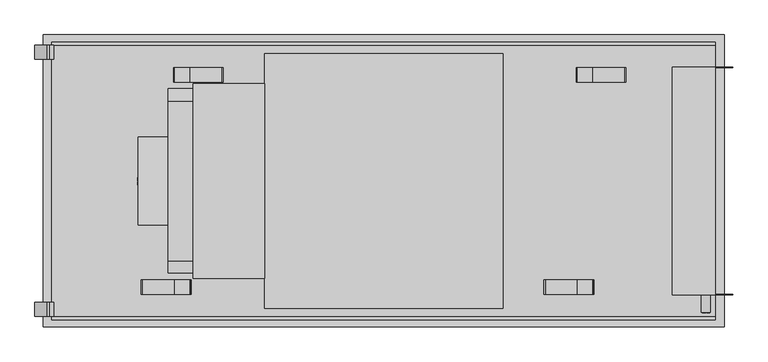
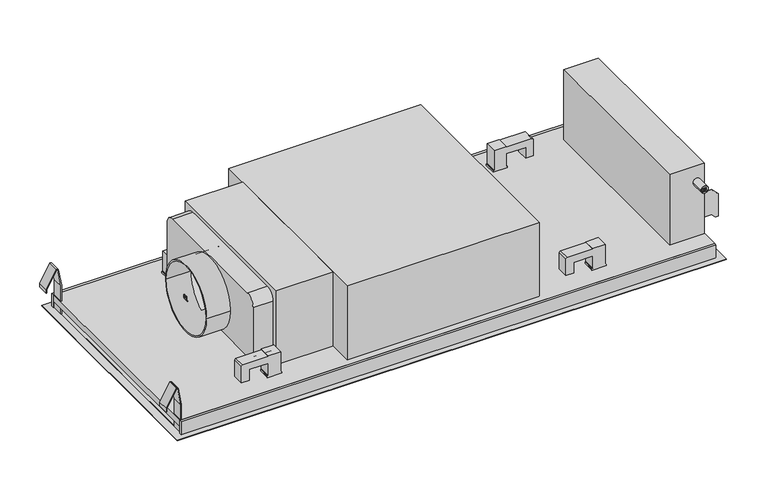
"""IFC4 building model written with IfcOpenShell, lengths in millimetres: proxy geometry, 12564130_NER_DAC4240_WSMA : 28C4240H_NER_12564130_DAC4240_WSMA."""

import ifcopenshell
import ifcopenshell.guid

model = None  # the IFC model being written
_history = None  # IfcOwnerHistory: only IFC2X3 demands one
_inside = {}  # id of a spatial element -> (the spatial element, [elements in it])
_under = {}  # id of a project, library or spatial element -> (it, [spatial elements below it])
_declared = {}  # id of a project -> (the project, [libraries it declares])
_typed = {}  # id of a type object -> (the type object, [elements of that type])
_made_of = {}  # id of a material, layer set ... -> (it, [elements and type objects made of it])


def new_model(schema):
    """Start an empty IFC model of exactly this schema.

    Asked for "IFC4X3", IfcOpenShell would pick the latest addendum, in which some entities
    have other attributes; the version numbers below select the first issue.
    IFC2X3 requires an IfcOwnerHistory on every rooted entity: one is made here for all.
    """
    global model, _history
    if schema == "IFC4X3":
        model = ifcopenshell.file(schema_version=(4, 3, 0, 0))
    else:
        model = ifcopenshell.file(schema=schema)
    _inside.clear()
    _under.clear()
    _declared.clear()
    _typed.clear()
    _made_of.clear()
    _history = None
    if model.schema == "IFC2X3":
        org = make("IfcOrganization", Name="unknown")
        user = make(
            "IfcPersonAndOrganization",
            ThePerson=make("IfcPerson", FamilyName="unknown"),
            TheOrganization=org,
        )
        app = make(
            "IfcApplication",
            ApplicationDeveloper=org,
            Version="unknown",
            ApplicationFullName="unknown",
            ApplicationIdentifier="unknown",
        )
        _history = make(
            "IfcOwnerHistory",
            OwningUser=user,
            OwningApplication=app,
            ChangeAction="ADDED",
            CreationDate=0,
        )
    return model


def make(cls, **values):
    """One entity of the class cls with the attributes given. An attribute that is None is left unset."""
    return model.create_entity(
        cls, **{name: value for name, value in values.items() if value is not None}
    )


def rooted(cls, **values):
    """An entity with a GlobalId (a new one), such as an element, a storey or a relation."""
    return make(cls, GlobalId=ifcopenshell.guid.new(), OwnerHistory=_history, **values)


def si_unit(unit_type, name, prefix=None):
    """IfcSIUnit, for example si_unit("LENGTHUNIT", "METRE", prefix="MILLI")."""
    return make("IfcSIUnit", UnitType=unit_type, Prefix=prefix, Name=name)


def assignment(units):
    """IfcUnitAssignment: the units of a project."""
    return None if units is None else make("IfcUnitAssignment", Units=units)


def point(xyz):
    """IfcCartesianPoint."""
    return None if xyz is None else make("IfcCartesianPoint", Coordinates=xyz)


def direction(xyz):
    """IfcDirection."""
    return None if xyz is None else make("IfcDirection", DirectionRatios=xyz)


def frame(location, z_axis=None, x_axis=None):
    """IfcAxis2Placement3D, a coordinate frame: its origin and axes. An axis left out is left unset."""
    return make(
        "IfcAxis2Placement3D",
        Location=point(location),
        Axis=direction(z_axis),
        RefDirection=direction(x_axis),
    )


def frame_2d(location, x_axis=None):
    """IfcAxis2Placement2D, a coordinate frame in the plane: its origin and x axis."""
    return make(
        "IfcAxis2Placement2D", Location=point(location), RefDirection=direction(x_axis)
    )


def origin():
    """The frame at (0, 0, 0) with its axes left unset."""
    return frame((0.0, 0.0, 0.0))


def origin_with_axes():
    """The frame at (0, 0, 0) with the z axis (0, 0, 1) and the x axis (1, 0, 0) written out."""
    return frame((0.0, 0.0, 0.0), z_axis=(0.0, 0.0, 1.0), x_axis=(1.0, 0.0, 0.0))


def place(relative_to, where):
    """IfcLocalPlacement: puts the frame where relative to a parent placement (None: the world)."""
    return make(
        "IfcLocalPlacement", PlacementRelTo=relative_to, RelativePlacement=where
    )


def context(
    kind, dimensions, precision=None, world=None, true_north=None, identifier=None
):
    """IfcGeometricRepresentationContext, for example the 3D "Model" context."""
    return make(
        "IfcGeometricRepresentationContext",
        ContextIdentifier=identifier,
        ContextType=kind,
        CoordinateSpaceDimension=dimensions,
        Precision=precision,
        WorldCoordinateSystem=world,
        TrueNorth=true_north,
    )


def project(units=None, contexts=None):
    """IfcProject with its units and contexts."""
    return rooted(
        "IfcProject",
        Name="project",
        RepresentationContexts=contexts,
        UnitsInContext=assignment(units),
    )


def spatial(cls, under=None, at=None, **own):
    """A site, building, storey or space (cls), placed at a placement, below another one or the project."""
    s = rooted(cls, ObjectPlacement=at, **own)
    if under is not None:
        _under.setdefault(under.id(), (under, []))[1].append(s)
    return s


def polyline(points):
    """IfcPolyline through the points."""
    return make("IfcPolyline", Points=[point(p) for p in points])


def circle_curve(where, radius):
    """IfcCircle in the frame where."""
    return make("IfcCircle", Position=where, Radius=radius)


def ellipse_curve(where, semi_axis1, semi_axis2):
    """IfcEllipse in the frame where."""
    return make(
        "IfcEllipse", Position=where, SemiAxis1=semi_axis1, SemiAxis2=semi_axis2
    )


def trimmed(basis, trim1, trim2, sense, master):
    """IfcTrimmedCurve: the piece of a basis curve between two trims."""
    return make(
        "IfcTrimmedCurve",
        BasisCurve=basis,
        Trim1=trim1,
        Trim2=trim2,
        SenseAgreement=sense,
        MasterRepresentation=master,
    )


def segment(curve, same_sense, transition):
    """IfcCompositeCurveSegment."""
    return make(
        "IfcCompositeCurveSegment",
        Transition=transition,
        SameSense=same_sense,
        ParentCurve=curve,
    )


def composite_curve(segments, self_intersect=None):
    """IfcCompositeCurve: segments joined end to end."""
    return make("IfcCompositeCurve", Segments=segments, SelfIntersect=self_intersect)


def outline(outer, holes=None, kind="AREA"):
    """IfcArbitraryClosedProfileDef: a profile drawn as a closed curve; with holes, ...WithVoids."""
    if holes is None:
        return make("IfcArbitraryClosedProfileDef", ProfileType=kind, OuterCurve=outer)
    return make(
        "IfcArbitraryProfileDefWithVoids",
        ProfileType=kind,
        OuterCurve=outer,
        InnerCurves=holes,
    )


def extrude(swept, where, along, depth):
    """IfcExtrudedAreaSolid: the profile swept, set in the frame where, extruded along a direction by depth."""
    return make(
        "IfcExtrudedAreaSolid",
        SweptArea=swept,
        Position=where,
        ExtrudedDirection=direction(along),
        Depth=depth,
    )


def faces_of(points, faces, orient=None, outer=None):
    """IfcFace entities. A face is a list of loops; a loop is a list of indices into points, from 0.

    orient and outer hold one flag for each loop. By default every Orientation is true, the
    first loop of a face is its IfcFaceOuterBound and the others are IfcFaceBound.
    """
    made = []
    for i, loops in enumerate(faces):
        bounds = []
        for j, loop in enumerate(loops):
            is_outer = j == 0 if outer is None else outer[i][j]
            bounds.append(
                make(
                    "IfcFaceOuterBound" if is_outer else "IfcFaceBound",
                    Bound=make("IfcPolyLoop", Polygon=[points[k] for k in loop]),
                    Orientation=True if orient is None else orient[i][j],
                )
            )
        made.append(make("IfcFace", Bounds=bounds))
    return made


def faceted_brep(points, faces, orient=None, outer=None, voids=None):
    """IfcFacetedBrep: a solid bounded by flat faces; with voids (closed shells), ...WithVoids."""
    shared = [point(p) for p in points]
    hull = make("IfcClosedShell", CfsFaces=faces_of(shared, faces, orient, outer))
    if voids is None:
        return make("IfcFacetedBrep", Outer=hull)
    return make(
        "IfcFacetedBrepWithVoids",
        Outer=hull,
        Voids=[
            make(cls, CfsFaces=faces_of(shared, fs, o, b)) for cls, fs, o, b in voids
        ],
    )


def shape(context_of_items, identifier, shape_type, items):
    """IfcShapeRepresentation: the items that make up one representation, for example the "Body"."""
    return make(
        "IfcShapeRepresentation",
        ContextOfItems=context_of_items,
        RepresentationIdentifier=identifier,
        RepresentationType=shape_type,
        Items=items,
    )


def source(mapping_origin, context_of_items, identifier, shape_type, items):
    """IfcRepresentationMap: a shape defined once, which mapped items show again and again."""
    return make(
        "IfcRepresentationMap",
        MappingOrigin=mapping_origin,
        MappedRepresentation=shape(context_of_items, identifier, shape_type, items),
    )


def transform(
    local_origin,
    x_axis=None,
    y_axis=None,
    z_axis=None,
    scale=None,
    scale2=None,
    scale3=None,
    uniform=True,
):
    """IfcCartesianTransformationOperator3D, or its non-uniform kind. x_axis, y_axis, z_axis: its Axis1, 2, 3."""
    if uniform:
        return make(
            "IfcCartesianTransformationOperator3D",
            Axis1=direction(x_axis),
            Axis2=direction(y_axis),
            LocalOrigin=point(local_origin),
            Scale=scale,
            Axis3=direction(z_axis),
        )
    return make(
        "IfcCartesianTransformationOperator3DnonUniform",
        Axis1=direction(x_axis),
        Axis2=direction(y_axis),
        LocalOrigin=point(local_origin),
        Scale=scale,
        Axis3=direction(z_axis),
        Scale2=scale2,
        Scale3=scale3,
    )


def mapped(mapping_source, mapping_target):
    """IfcMappedItem: shows the shape of a source again, moved by a transform."""
    return make(
        "IfcMappedItem", MappingSource=mapping_source, MappingTarget=mapping_target
    )


def made_of(thing, what):
    """Note that an element or type object is made of a material, layer set ...; save() writes the relation."""
    if what is not None:
        _made_of.setdefault(what.id(), (what, []))[1].append(thing)
    return thing


def element(
    cls,
    number,
    at=None,
    inside=None,
    cuts=None,
    type_object=None,
    material=None,
    context=None,
    identifier="Body",
    shape_type=None,
    held_by="IfcProductDefinitionShape",
    body=None,
    shapes=None,
    **own,
):
    """One element of the class cls, such as IfcWall. Its Tag is "e" and its number.

    at: its placement. inside: the storey or other place that contains it. cuts: it is an
    opening in that element (IfcRelVoidsElement). A single representation is given by context,
    identifier, shape_type and body (its items); several are given by shapes. held_by: the class
    of the entity that holds the representations. save() writes the other relations.
    """
    e = rooted(cls, Tag="e%d" % number, ObjectPlacement=at, **own)
    if body is not None:
        shapes = [shape(context, identifier, shape_type, body)]
    if shapes is not None:
        e.Representation = make(held_by, Representations=shapes)
    if inside is not None:
        _inside.setdefault(inside.id(), (inside, []))[1].append(e)
    if cuts is not None:
        rooted(
            "IfcRelVoidsElement", RelatingBuildingElement=cuts, RelatedOpeningElement=e
        )
    if type_object is not None:
        _typed.setdefault(type_object.id(), (type_object, []))[1].append(e)
    return made_of(e, material)


def aggregate(whole, parts):
    """IfcRelAggregates: a whole, such as a stair, and the parts it consists of."""
    return rooted("IfcRelAggregates", RelatingObject=whole, RelatedObjects=parts)


def save(model, path):
    """Write the relations noted so far, then the file.

    IfcRelAggregates (storeys below a building ...), IfcRelContainedInSpatialStructure (elements
    in a storey), IfcRelDefinesByType, IfcRelAssociatesMaterial and IfcRelDeclares: one each for
    every whole, place, type object, material and project.
    """
    for whole, parts in _under.values():
        aggregate(whole, parts)
    for where, things in _inside.values():
        rooted(
            "IfcRelContainedInSpatialStructure",
            RelatedElements=things,
            RelatingStructure=where,
        )
    for kind, things in _typed.values():
        rooted("IfcRelDefinesByType", RelatedObjects=things, RelatingType=kind)
    for what, things in _made_of.values():
        rooted("IfcRelAssociatesMaterial", RelatedObjects=things, RelatingMaterial=what)
    for by, libraries in _declared.values():
        rooted("IfcRelDeclares", RelatingContext=by, RelatedDefinitions=libraries)
    model.write(path)


def plane_surface(at):
    """IfcPlane: the flat surface through the origin of the frame at, square to its z axis."""
    return make("IfcPlane", Position=at)


def cylinder_surface(at, radius):
    """IfcCylindricalSurface: all points at the distance radius from the z axis of the frame at."""
    return make("IfcCylindricalSurface", Position=at, Radius=radius)


def revolved_surface(curve, axis_point, axis_direction):
    """IfcSurfaceOfRevolution: the curve turned about the line through axis_point along axis_direction."""
    return make(
        "IfcSurfaceOfRevolution",
        SweptCurve=make("IfcArbitraryOpenProfileDef", ProfileType="CURVE", Curve=curve),
        AxisPosition=make("IfcAxis1Placement", Location=point(axis_point), Axis=direction(axis_direction)),
    )


def extruded_surface(curve, direction_of_extrusion, depth):
    """IfcSurfaceOfLinearExtrusion: the curve pushed along a direction by depth."""
    return make(
        "IfcSurfaceOfLinearExtrusion",
        SweptCurve=make("IfcArbitraryOpenProfileDef", ProfileType="CURVE", Curve=curve),
        ExtrudedDirection=direction(direction_of_extrusion),
        Depth=depth,
    )


def advanced_brep(points, edges, surfaces, faces):
    """IfcAdvancedBrep: a solid bounded by faces that lie on surfaces and meet in shared edges.

    An edge is (start, end): straight between two places in points (the first is 0);
    or (start, end, curve); or (start, end, curve, False) where it runs against its curve.
    A face is (place in surfaces, loops), or (place, loops, False) where it looks against
    its surface's normal. A loop lists edges by number (the first is 1), with a minus sign
    where the edge is run from its end to its start. The first loop is the outer one.
    """
    corners = [point(p) for p in points]
    vertices = [make("IfcVertexPoint", VertexGeometry=c) for c in corners]
    made = []
    for start, end, *more in edges:
        made.append(
            make(
                "IfcEdgeCurve",
                EdgeStart=vertices[start],
                EdgeEnd=vertices[end],
                EdgeGeometry=more[0] if more else make("IfcPolyline", Points=[corners[start], corners[end]]),
                SameSense=more[1] if len(more) > 1 else True,
            )
        )
    hull = []
    for where, loops, *sense in faces:
        bounds = []
        for j, loop in enumerate(loops):
            ring = [make("IfcOrientedEdge", EdgeElement=made[abs(k) - 1], Orientation=k > 0) for k in loop]
            bounds.append(
                make(
                    "IfcFaceOuterBound" if j == 0 else "IfcFaceBound",
                    Bound=make("IfcEdgeLoop", EdgeList=ring),
                    Orientation=True,
                )
            )
        hull.append(make("IfcAdvancedFace", Bounds=bounds, FaceSurface=surfaces[where], SameSense=sense[0] if sense else True))
    return make("IfcAdvancedBrep", Outer=make("IfcClosedShell", CfsFaces=hull))


def specialty_equipment_91089ce4(model_context):
    return source(origin(), model_context, "Body", "SolidModel", [
        extrude(outline(polyline([(0.0, 0.0), (1.1495, 0.0), (1.1495, 6.3555), (0.0, 6.3555), (0.0, 7.9515), (4.18, 7.9515), (4.18, 6.3555), (3.04, 6.3555), (3.04, 2.3238752), (7.2865, 7.9515), (11.552, 2.1987777), (11.552, 6.3555), (10.3835, 6.3555), (10.3835, 7.9515), (17.9645, 7.9515), (17.9645, 6.3555), (16.758, 6.3555), (16.758, 0.0), (17.9645, 0.0), (17.9645, -1.5485), (12.179, -1.5485), (9.405, 2.014), (6.6215, -1.5485), (0.0, -1.5485), (0.0, 0.0)])), frame((-537.4682202, 221.9339142, 5.9781829), z_axis=(-0.25881904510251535, 0.0, 0.9659258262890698), x_axis=(0.0, 1.0, 0.0)), (0.0, 0.0, 1.0), 1.0),
        extrude(outline(polyline([(0.0, 0.0), (1.14, 0.0), (1.14, 6.3555), (0.0, 6.3555), (0.0, 7.9515), (7.7045, 7.9515), (7.7045, 6.3555), (6.536, 6.3555), (6.536, -1.5485), (0.0, -1.5485), (0.0, 0.0)])), frame((-537.4682202, 260.4849142, 5.9781829), z_axis=(-0.25881904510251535, 0.0, 0.9659258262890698), x_axis=(0.0, 1.0, 0.0)), (0.0, 0.0, 1.0), 1.0),
        extrude(outline(polyline([(0.0, 0.0), (1.6999427, 0.0), (1.7088618, -3.5531031), (0.012954, -3.5617037), (0.0, 0.0)])), frame((-536.5138855, 243.2139142, 6.2338962), z_axis=(-0.25881904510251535, 0.0, 0.9659258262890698), x_axis=(-0.8744764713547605, 0.42472021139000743, -0.23431526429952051)), (0.0, 0.0, 1.0), 1.0),
        extrude(outline(polyline([(0.5859016, 2.8667553), (2.1254061, 3.588992), (2.6055523, 2.5655224), (6.1317919, 4.2198077), (5.6516457, 5.2432772), (7.0965438, 5.9211306), (10.2800342, -0.8647304), (8.835136, -1.5425838), (8.3670943, -0.544916), (3.3013503, -2.921438), (0.5859016, 2.8667553)])), frame((-536.5138855, 243.2139142, 6.2338962), z_axis=(-0.25881904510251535, 0.0, 0.9659258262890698), x_axis=(-0.8744764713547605, 0.42472021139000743, -0.23431526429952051)), (0.0, 0.0, 1.0), 1.0),
        advanced_brep(
        [(-542.9739974, 253.5974142, 4.5029144), (-542.0471916, 253.5974142, 4.7512513), (-542.0471916, 259.9529142, 4.7512513), (-542.0471916, 248.8949142, 4.7512513), (-545.1487794, 251.5074142, 3.9201833), (-542.9739974, 259.7914142, 4.5029144), (-542.9739974, 256.9224142, 4.5029144), (-544.0017425, 254.6614142, 4.2275309), (-540.8726258, 253.5974142, 5.0659752), (-539.8724096, 253.5974142, 5.3339823), (-539.8724096, 255.2219142, 5.3339823), (-540.8726258, 255.2219142, 5.0659752), (-543.2328165, 253.5974142, 5.4688402), (-544.2605616, 254.6614142, 5.1934567), (-543.2328165, 256.9224142, 5.4688402), (-543.2328165, 259.7914142, 5.4688402), (-545.4075985, 251.5074142, 4.8861091), (-542.3060106, 248.8949142, 5.7171771), (-542.3060106, 259.9529142, 5.7171771), (-542.3060106, 253.5974142, 5.7171771), (-541.1314448, 253.5974142, 6.031901), (-541.1314448, 255.2219142, 6.031901), (-540.1312286, 255.2219142, 6.2999082), (-540.1312286, 253.5974142, 6.2999082)],
        [
            (0, 1),
            (1, 2),
            (2, 3, ellipse_curve(frame((-542.0471916, 254.4239142, 4.7512513), z_axis=(0.25881904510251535, 0.0, -0.9659258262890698), x_axis=(0.0, -1.0, 0.0)), 5.529, 4.5695)),
            (3, 4, circle_curve(frame((-541.7351976, 252.571466, 4.8348498), z_axis=(0.25881904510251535, 0.0, -0.9659258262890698), x_axis=(-0.9659258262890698, 0.0, -0.25881904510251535)), 3.690713)),
            (4, 5, circle_curve(frame((-539.3126556, 254.3132316, 5.483968), z_axis=(0.25881904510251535, 0.0, -0.9659258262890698), x_axis=(-0.9659258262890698, 0.0, -0.25881904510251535)), 6.6617096)),
            (5, 6),
            (6, 7, circle_curve(frame((-542.120602, 255.1257966, 4.731581), z_axis=(-0.25881904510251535, 0.0, 0.9659258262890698), x_axis=(-0.9659258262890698, 0.0, -0.25881904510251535)), 2.0021007)),
            (7, 0, circle_curve(frame((-542.9739974, 254.6614142, 4.5029144), z_axis=(-0.25881904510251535, 0.0, 0.9659258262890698), x_axis=(-0.9659258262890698, 0.0, -0.25881904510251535)), 1.064)),
            (8, 9),
            (9, 10, circle_curve(frame((-539.8724096, 254.4096642, 5.3339823), z_axis=(-0.25881904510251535, 0.0, 0.9659258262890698), x_axis=(-0.9659258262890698, 0.0, -0.25881904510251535)), 0.81225)),
            (10, 11),
            (11, 8),
            (12, 13, circle_curve(frame((-543.2328165, 254.6614142, 5.4688402), z_axis=(0.25881904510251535, 0.0, -0.9659258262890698), x_axis=(-0.9659258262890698, 0.0, -0.25881904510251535)), 1.064)),
            (13, 14, circle_curve(frame((-542.379421, 255.1257966, 5.6975068), z_axis=(0.25881904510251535, 0.0, -0.9659258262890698), x_axis=(-0.9659258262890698, 0.0, -0.25881904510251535)), 2.0021007)),
            (14, 15),
            (15, 16, circle_curve(frame((-539.5714746, 254.3132316, 6.4498938), z_axis=(-0.25881904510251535, 0.0, 0.9659258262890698), x_axis=(-0.9659258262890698, 0.0, -0.25881904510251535)), 6.6617096)),
            (16, 17, circle_curve(frame((-541.9940166, 252.571466, 5.8007756), z_axis=(-0.25881904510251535, 0.0, 0.9659258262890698), x_axis=(-0.9659258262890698, 0.0, -0.25881904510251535)), 3.690713)),
            (17, 18, ellipse_curve(frame((-542.3060106, 254.4239142, 5.7171771), z_axis=(-0.25881904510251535, 0.0, 0.9659258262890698), x_axis=(0.0, -1.0, 0.0)), 5.529, 4.5695)),
            (18, 19),
            (19, 12),
            (20, 21),
            (21, 22),
            (22, 23, circle_curve(frame((-540.1312286, 254.4096642, 6.2999082), z_axis=(0.25881904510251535, 0.0, -0.9659258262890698), x_axis=(-0.9659258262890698, 0.0, -0.25881904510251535)), 0.81225)),
            (23, 20),
            (0, 12),
            (19, 1),
            (18, 2),
            (5, 15),
            (14, 6),
            (17, 3),
            (13, 7),
            (16, 4),
            (8, 20),
            (23, 9),
            (22, 10),
            (21, 11),
        ],
        [
            plane_surface(frame((-542.0471916, 253.5974142, 4.7512513), z_axis=(0.25881904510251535, 0.0, -0.9659258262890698), x_axis=(0.9659258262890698, 0.0, 0.25881904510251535))),
            plane_surface(frame((-542.3060106, 253.5974142, 5.7171771), z_axis=(-0.25881904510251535, 0.0, 0.9659258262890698), x_axis=(-0.9659258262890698, 0.0, -0.25881904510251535))),
            plane_surface(frame((-542.9739974, 253.5974142, 4.5029144), z_axis=(0.0, 1.0000000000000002, 0.0), x_axis=(-0.2588190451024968, 0.0, 0.9659258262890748))),
            plane_surface(frame((-542.0471916, 253.5974142, 4.7512513), z_axis=(-0.9659258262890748, 0.0, -0.2588190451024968), x_axis=(-0.2588190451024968, 0.0, 0.9659258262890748))),
            plane_surface(frame((-542.9739974, 259.7914142, 4.5029144), z_axis=(0.9659258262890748, 0.0, 0.2588190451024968), x_axis=(-0.2588190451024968, 0.0, 0.9659258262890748))),
            extruded_surface(trimmed(ellipse_curve(frame((-542.5648297, 254.4239142, 6.6831029), z_axis=(0.25881904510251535, 0.0, -0.9659258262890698), x_axis=(0.0, -1.0, 0.0)), 5.529, 4.5695), [point((-542.5648297, 259.9529142, 6.6831029))], [point((-542.5648297, 248.8949142, 6.6831029))], True, "CARTESIAN"), (0.2588190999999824, 0.0, -0.9659258), 0.9999999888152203),
            revolved_surface(polyline([(-544.3133017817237, 255.1257966, 5.179325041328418), (-544.0544827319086, 255.1257966, 4.213399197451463)]), (-542.379421, 255.1257966, 5.6975068), (-0.25881904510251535, 0.0, 0.9659258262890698)),
            revolved_surface(polyline([(-544.2605615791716, 254.6614142, 5.193456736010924), (-544.0017425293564, 254.6614142, 4.227530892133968)]), (-543.2328165, 254.6614142, 5.4688402), (-0.25881904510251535, 0.0, 0.9659258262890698)),
            cylinder_surface(frame((-541.9940166, 252.571466, 5.8007756), z_axis=(0.25881904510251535, 0.0, -0.9659258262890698), x_axis=(-0.9659258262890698, 0.0, -0.25881904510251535)), 3.690713),
            cylinder_surface(frame((-539.5714746, 254.3132316, 6.4498938), z_axis=(0.25881904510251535, 0.0, -0.9659258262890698), x_axis=(-0.9659258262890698, 0.0, -0.25881904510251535)), 6.6617096),
            plane_surface(frame((-540.8726258, 253.5974142, 5.0659752), z_axis=(0.0, 1.0000000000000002, 0.0), x_axis=(-0.2588190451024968, 0.0, 0.9659258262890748))),
            revolved_surface(polyline([(-540.9158018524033, 254.4096642, 6.089682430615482), (-540.6569827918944, 254.4096642, 5.123756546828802)]), (-540.1312286, 254.4096642, 6.2999082), (-0.25881904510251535, 0.0, 0.9659258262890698)),
            plane_surface(frame((-539.8724096, 255.2219142, 5.3339823), z_axis=(0.0, -1.0000000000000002, 0.0), x_axis=(-0.2588190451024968, 0.0, 0.9659258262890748))),
            plane_surface(frame((-540.8726258, 255.2219142, 5.0659752), z_axis=(0.9659258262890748, 0.0, 0.2588190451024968), x_axis=(-0.2588190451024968, 0.0, 0.9659258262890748))),
        ],
        [
            (0, [[1, 2, 3, 4, 5, 6, 7, 8], [9, 10, 11, 12]]),
            (1, [[13, 14, 15, 16, 17, 18, 19, 20], [21, 22, 23, 24]]),
            (2, [[-1, 25, -20, 26]]),
            (3, [[-2, -26, -19, 27]]),
            (4, [[-6, 28, -15, 29]]),
            (5, [[-3, -27, -18, 30]]),
            (6, [[-7, -29, -14, 31]]),
            (7, [[-8, -31, -13, -25]]),
            (8, [[-4, -30, -17, 32]]),
            (9, [[-5, -32, -16, -28]]),
            (10, [[-9, 33, -24, 34]]),
            (11, [[-10, -34, -23, 35]]),
            (12, [[-11, -35, -22, 36]]),
            (13, [[-12, -36, -21, -33]]),
        ],
    ),
        advanced_brep(
        [(-542.9739974, 273.4239142, 4.5029144), (-542.0471916, 273.4239142, 4.7512513), (-542.0471916, 279.7794142, 4.7512513), (-542.0471916, 268.7214142, 4.7512513), (-545.1487794, 271.3339142, 3.9201833), (-542.9739974, 279.6179142, 4.5029144), (-542.9739974, 276.7489142, 4.5029144), (-544.0017425, 274.4879142, 4.2275309), (-540.8726258, 273.4239142, 5.0659752), (-539.8724096, 273.4239142, 5.3339823), (-539.8724096, 275.0484142, 5.3339823), (-540.8726258, 275.0484142, 5.0659752), (-543.2328165, 273.4239142, 5.4688402), (-544.2605616, 274.4879142, 5.1934567), (-543.2328165, 276.7489142, 5.4688402), (-543.2328165, 279.6179142, 5.4688402), (-545.4075985, 271.3339142, 4.8861091), (-542.3060106, 268.7214142, 5.7171771), (-542.3060106, 279.7794142, 5.7171771), (-542.3060106, 273.4239142, 5.7171771), (-541.1314448, 273.4239142, 6.031901), (-541.1314448, 275.0484142, 6.031901), (-540.1312286, 275.0484142, 6.2999082), (-540.1312286, 273.4239142, 6.2999082)],
        [
            (0, 1),
            (1, 2),
            (2, 3, ellipse_curve(frame((-542.0471916, 274.2504142, 4.7512513), z_axis=(0.25881904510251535, 0.0, -0.9659258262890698), x_axis=(0.0, -1.0, 0.0)), 5.529, 4.5695)),
            (3, 4, circle_curve(frame((-541.7351976, 272.397966, 4.8348498), z_axis=(0.25881904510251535, 0.0, -0.9659258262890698), x_axis=(-0.9659258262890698, 0.0, -0.25881904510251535)), 3.690713)),
            (4, 5, circle_curve(frame((-539.3126556, 274.1397316, 5.483968), z_axis=(0.25881904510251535, 0.0, -0.9659258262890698), x_axis=(-0.9659258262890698, 0.0, -0.25881904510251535)), 6.6617096)),
            (5, 6),
            (6, 7, circle_curve(frame((-542.120602, 274.9522966, 4.731581), z_axis=(-0.25881904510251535, 0.0, 0.9659258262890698), x_axis=(-0.9659258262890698, 0.0, -0.25881904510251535)), 2.0021007)),
            (7, 0, circle_curve(frame((-542.9739974, 274.4879142, 4.5029144), z_axis=(-0.25881904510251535, 0.0, 0.9659258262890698), x_axis=(-0.9659258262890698, 0.0, -0.25881904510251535)), 1.064)),
            (8, 9),
            (9, 10, circle_curve(frame((-539.8724096, 274.2361642, 5.3339823), z_axis=(-0.25881904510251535, 0.0, 0.9659258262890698), x_axis=(-0.9659258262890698, 0.0, -0.25881904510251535)), 0.81225)),
            (10, 11),
            (11, 8),
            (12, 13, circle_curve(frame((-543.2328165, 274.4879142, 5.4688402), z_axis=(0.25881904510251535, 0.0, -0.9659258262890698), x_axis=(-0.9659258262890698, 0.0, -0.25881904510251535)), 1.064)),
            (13, 14, circle_curve(frame((-542.379421, 274.9522966, 5.6975068), z_axis=(0.25881904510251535, 0.0, -0.9659258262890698), x_axis=(-0.9659258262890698, 0.0, -0.25881904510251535)), 2.0021007)),
            (14, 15),
            (15, 16, circle_curve(frame((-539.5714746, 274.1397316, 6.4498938), z_axis=(-0.25881904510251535, 0.0, 0.9659258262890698), x_axis=(-0.9659258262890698, 0.0, -0.25881904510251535)), 6.6617096)),
            (16, 17, circle_curve(frame((-541.9940166, 272.397966, 5.8007756), z_axis=(-0.25881904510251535, 0.0, 0.9659258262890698), x_axis=(-0.9659258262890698, 0.0, -0.25881904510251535)), 3.690713)),
            (17, 18, ellipse_curve(frame((-542.3060106, 274.2504142, 5.7171771), z_axis=(-0.25881904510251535, 0.0, 0.9659258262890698), x_axis=(0.0, -1.0, 0.0)), 5.529, 4.5695)),
            (18, 19),
            (19, 12),
            (20, 21),
            (21, 22),
            (22, 23, circle_curve(frame((-540.1312286, 274.2361642, 6.2999082), z_axis=(0.25881904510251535, 0.0, -0.9659258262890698), x_axis=(-0.9659258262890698, 0.0, -0.25881904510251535)), 0.81225)),
            (23, 20),
            (0, 12),
            (19, 1),
            (18, 2),
            (5, 15),
            (14, 6),
            (17, 3),
            (13, 7),
            (16, 4),
            (8, 20),
            (23, 9),
            (22, 10),
            (21, 11),
        ],
        [
            plane_surface(frame((-542.0471916, 273.4239142, 4.7512513), z_axis=(0.25881904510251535, 0.0, -0.9659258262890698), x_axis=(0.9659258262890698, 0.0, 0.25881904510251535))),
            plane_surface(frame((-542.3060106, 273.4239142, 5.7171771), z_axis=(-0.25881904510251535, 0.0, 0.9659258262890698), x_axis=(-0.9659258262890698, 0.0, -0.25881904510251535))),
            plane_surface(frame((-542.9739974, 273.4239142, 4.5029144), z_axis=(0.0, 1.0000000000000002, 0.0), x_axis=(-0.2588190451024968, 0.0, 0.9659258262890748))),
            plane_surface(frame((-542.0471916, 273.4239142, 4.7512513), z_axis=(-0.9659258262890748, 0.0, -0.2588190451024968), x_axis=(-0.2588190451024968, 0.0, 0.9659258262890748))),
            plane_surface(frame((-542.9739974, 279.6179142, 4.5029144), z_axis=(0.9659258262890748, 0.0, 0.2588190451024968), x_axis=(-0.2588190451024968, 0.0, 0.9659258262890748))),
            extruded_surface(trimmed(ellipse_curve(frame((-542.5648297, 274.2504142, 6.6831029), z_axis=(0.25881904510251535, 0.0, -0.9659258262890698), x_axis=(0.0, -1.0, 0.0)), 5.529, 4.5695), [point((-542.5648297, 279.7794142, 6.6831029))], [point((-542.5648297, 268.7214142, 6.6831029))], True, "CARTESIAN"), (0.2588190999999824, 0.0, -0.9659258), 0.9999999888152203),
            revolved_surface(polyline([(-544.3133017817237, 274.9522966, 5.179325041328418), (-544.0544827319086, 274.9522966, 4.213399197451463)]), (-542.379421, 274.9522966, 5.6975068), (-0.25881904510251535, 0.0, 0.9659258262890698)),
            revolved_surface(polyline([(-544.2605615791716, 274.4879142, 5.193456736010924), (-544.0017425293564, 274.4879142, 4.227530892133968)]), (-543.2328165, 274.4879142, 5.4688402), (-0.25881904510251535, 0.0, 0.9659258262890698)),
            cylinder_surface(frame((-541.9940166, 272.397966, 5.8007756), z_axis=(0.25881904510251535, 0.0, -0.9659258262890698), x_axis=(-0.9659258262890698, 0.0, -0.25881904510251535)), 3.690713),
            cylinder_surface(frame((-539.5714746, 274.1397316, 6.4498938), z_axis=(0.25881904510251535, 0.0, -0.9659258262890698), x_axis=(-0.9659258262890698, 0.0, -0.25881904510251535)), 6.6617096),
            plane_surface(frame((-540.8726258, 273.4239142, 5.0659752), z_axis=(0.0, 1.0000000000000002, 0.0), x_axis=(-0.2588190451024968, 0.0, 0.9659258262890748))),
            revolved_surface(polyline([(-540.9158018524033, 274.2361642, 6.089682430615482), (-540.6569827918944, 274.2361642, 5.123756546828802)]), (-540.1312286, 274.2361642, 6.2999082), (-0.25881904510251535, 0.0, 0.9659258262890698)),
            plane_surface(frame((-539.8724096, 275.0484142, 5.3339823), z_axis=(0.0, -1.0000000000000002, 0.0), x_axis=(-0.2588190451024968, 0.0, 0.9659258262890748))),
            plane_surface(frame((-540.8726258, 275.0484142, 5.0659752), z_axis=(0.9659258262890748, 0.0, 0.2588190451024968), x_axis=(-0.2588190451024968, 0.0, 0.9659258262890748))),
        ],
        [
            (0, [[1, 2, 3, 4, 5, 6, 7, 8], [9, 10, 11, 12]]),
            (1, [[13, 14, 15, 16, 17, 18, 19, 20], [21, 22, 23, 24]]),
            (2, [[-1, 25, -20, 26]]),
            (3, [[-2, -26, -19, 27]]),
            (4, [[-6, 28, -15, 29]]),
            (5, [[-3, -27, -18, 30]]),
            (6, [[-7, -29, -14, 31]]),
            (7, [[-8, -31, -13, -25]]),
            (8, [[-4, -30, -17, 32]]),
            (9, [[-5, -32, -16, -28]]),
            (10, [[-9, 33, -24, 34]]),
            (11, [[-10, -34, -23, 35]]),
            (12, [[-11, -35, -22, 36]]),
            (13, [[-12, -36, -21, -33]]),
        ],
    ),
        extrude(outline(polyline([(-204.0, 416.5106201), (-204.0, 83.4893799), (-326.0, 83.4893799), (-326.0, 416.5106201), (-204.0, 416.5106201)])), frame((0.0, 0.0, 30.0), z_axis=(0.0, 0.0, 1.0), x_axis=(1.0, 0.0, 0.0)), (0.0, 0.0, 1.0), 166.0),
        extrude(outline(polyline([(567.6935243, 445.0), (567.6935243, 55.0), (494.1000061, 55.0), (494.1000061, 445.0), (567.6935243, 445.0)])), frame((0.0, 0.0, 30.0), z_axis=(0.0, 0.0, 1.0), x_axis=(1.0, 0.0, 0.0)), (0.0, 0.0, 1.0), 157.6000061),
        advanced_brep(
        [(-326.0, 407.6883545, 67.4832764), (-326.0, 407.6883545, 168.5167236), (-326.0, 387.0167236, 189.1883545), (-326.0, 112.9832764, 189.1883545), (-326.0, 92.3116455, 168.5167236), (-326.0, 92.3116455, 67.4832764), (-326.0, 112.9832764, 46.8116455), (-326.0, 211.5404146, 46.8116455), (-326.0, 288.4595854, 46.8116455), (-326.0, 387.0167236, 46.8116455), (-326.0, 322.0, 111.2000008), (-326.0, 282.2201755, 46.8116455), (-326.0, 217.7798245, 46.8116455), (-326.0, 178.0, 111.2000008), (-368.7057465, 407.6883545, 67.4832764), (-368.7057465, 387.0167236, 46.8116455), (-368.7057465, 288.4595854, 46.8116455), (-368.7057465, 325.0, 111.2000008), (-368.7057465, 175.0, 111.2000008), (-368.7057465, 211.5404146, 46.8116455), (-368.7057465, 112.9832764, 46.8116455), (-368.7057465, 92.3116455, 67.4832764), (-368.7057465, 92.3116455, 168.5167236), (-368.7057465, 112.9832764, 189.1883545), (-368.7057465, 387.0167236, 189.1883545), (-368.7057465, 407.6883545, 168.5167236), (-420.0, 175.0, 111.2000008), (-420.0, 325.0, 111.2000008), (-420.0, 178.0, 111.2000008), (-420.0, 322.0, 111.2000008), (-368.7057465, 322.0, 111.2000008), (-368.7057465, 178.0, 111.2000008), (-368.7057465, 217.7798245, 46.8116455), (-368.7057465, 282.2201755, 46.8116455)],
        [
            (0, 1),
            (1, 2, circle_curve(frame((-326.0, 387.0167236, 168.5167236), z_axis=(1.0, 0.0, 0.0), x_axis=(0.0, 1.0, 0.0)), 20.6716309)),
            (2, 3),
            (3, 4, circle_curve(frame((-326.0, 112.9832764, 168.5167236), z_axis=(1.0, 0.0, 0.0), x_axis=(0.0, 1.0, 0.0)), 20.6716309)),
            (4, 5),
            (5, 6, circle_curve(frame((-326.0, 112.9832764, 67.4832764), z_axis=(1.0, 0.0, 0.0), x_axis=(0.0, 1.0, 0.0)), 20.6716309)),
            (6, 7),
            (7, 8, circle_curve(frame((-326.0, 250.0, 111.2000008), z_axis=(1.0, 0.0, 0.0), x_axis=(0.0, 1.0, 0.0)), 75.0)),
            (8, 9),
            (9, 0, circle_curve(frame((-326.0, 387.0167236, 67.4832764), z_axis=(1.0, 0.0, 0.0), x_axis=(0.0, 1.0, 0.0)), 20.6716309)),
            (10, 11, circle_curve(frame((-326.0, 250.0, 111.2000008), z_axis=(-1.0, 0.0, 0.0), x_axis=(0.0, 1.0, 0.0)), 72.0)),
            (11, 12, circle_curve(frame((-326.0, 250.0, 111.2000008), z_axis=(-1.0, 0.0, 0.0), x_axis=(0.0, 1.0, 0.0)), 72.0)),
            (12, 13, circle_curve(frame((-326.0, 250.0, 111.2000008), z_axis=(-1.0, 0.0, 0.0), x_axis=(0.0, 1.0, 0.0)), 72.0)),
            (13, 10, circle_curve(frame((-326.0, 250.0, 111.2000008), z_axis=(-1.0, 0.0, 0.0), x_axis=(0.0, 1.0, 0.0)), 72.0)),
            (14, 15, circle_curve(frame((-368.7057465, 387.0167236, 67.4832764), z_axis=(-1.0, 0.0, 0.0), x_axis=(0.0, 1.0, 0.0)), 20.6716309)),
            (15, 16),
            (16, 17, circle_curve(frame((-368.7057465, 250.0, 111.2000008), z_axis=(1.0, 0.0, 0.0), x_axis=(0.0, 1.0, 0.0)), 75.0)),
            (17, 18, circle_curve(frame((-368.7057465, 250.0, 111.2000008), z_axis=(1.0, 0.0, 0.0), x_axis=(0.0, 1.0, 0.0)), 75.0)),
            (18, 19, circle_curve(frame((-368.7057465, 250.0, 111.2000008), z_axis=(1.0, 0.0, 0.0), x_axis=(0.0, 1.0, 0.0)), 75.0)),
            (19, 20),
            (20, 21, circle_curve(frame((-368.7057465, 112.9832764, 67.4832764), z_axis=(-1.0, 0.0, 0.0), x_axis=(0.0, 1.0, 0.0)), 20.6716309)),
            (21, 22),
            (22, 23, circle_curve(frame((-368.7057465, 112.9832764, 168.5167236), z_axis=(-1.0, 0.0, 0.0), x_axis=(0.0, 1.0, 0.0)), 20.6716309)),
            (23, 24),
            (24, 25, circle_curve(frame((-368.7057465, 387.0167236, 168.5167236), z_axis=(-1.0, 0.0, 0.0), x_axis=(0.0, 1.0, 0.0)), 20.6716309)),
            (25, 14),
            (0, 14),
            (25, 1),
            (24, 2),
            (23, 3),
            (22, 4),
            (21, 5),
            (20, 6),
            (19, 7),
            (15, 9),
            (8, 16),
            (26, 27, circle_curve(frame((-420.0, 250.0, 111.2000008), z_axis=(-1.0, 0.0, 0.0), x_axis=(0.0, 1.0, 0.0)), 75.0)),
            (27, 26, circle_curve(frame((-420.0, 250.0, 111.2000008), z_axis=(-1.0, 0.0, 0.0), x_axis=(0.0, 1.0, 0.0)), 75.0)),
            (28, 29, circle_curve(frame((-420.0, 250.0, 111.2000008), z_axis=(1.0, 0.0, 0.0), x_axis=(0.0, 1.0, 0.0)), 72.0)),
            (29, 28, circle_curve(frame((-420.0, 250.0, 111.2000008), z_axis=(1.0, 0.0, 0.0), x_axis=(0.0, 1.0, 0.0)), 72.0)),
            (27, 17),
            (18, 26),
            (29, 30),
            (30, 31, circle_curve(frame((-368.7057465, 250.0, 111.2000008), z_axis=(1.0, 0.0, 0.0), x_axis=(0.0, 1.0, 0.0)), 72.0)),
            (31, 28),
            (31, 32, circle_curve(frame((-368.7057465, 250.0, 111.2000008), z_axis=(1.0, 0.0, 0.0), x_axis=(0.0, 1.0, 0.0)), 72.0)),
            (32, 12),
            (11, 33),
            (33, 30, circle_curve(frame((-368.7057465, 250.0, 111.2000008), z_axis=(1.0, 0.0, 0.0), x_axis=(0.0, 1.0, 0.0)), 72.0)),
            (31, 13),
            (10, 30),
        ],
        [
            plane_surface(frame((-326.0, 407.6883545, 168.5167236), z_axis=(1.0, 0.0, 0.0), x_axis=(0.0, 0.0, 1.0))),
            plane_surface(frame((-368.7057465, 407.6883545, 168.5167236), z_axis=(-1.0, 0.0, 0.0), x_axis=(0.0, 0.0, -1.0))),
            plane_surface(frame((-326.0, 407.6883545, 67.4832764), z_axis=(0.0, 1.0, 0.0), x_axis=(-1.0, 0.0, 0.0))),
            cylinder_surface(frame((-368.7057465, 387.0167236, 168.5167236), z_axis=(1.0, 0.0, 0.0), x_axis=(0.0, 1.0, 0.0)), 20.6716309),
            plane_surface(frame((-326.0, 387.0167236, 189.1883545), z_axis=(0.0, 0.0, 1.0), x_axis=(-1.0, 0.0, 0.0))),
            cylinder_surface(frame((-368.7057465, 112.9832764, 168.5167236), z_axis=(1.0, 0.0, 0.0), x_axis=(0.0, 1.0, 0.0)), 20.6716309),
            plane_surface(frame((-326.0, 92.3116455, 168.5167236), z_axis=(0.0, -1.0, 0.0), x_axis=(-1.0, 0.0, 0.0))),
            cylinder_surface(frame((-368.7057465, 112.9832764, 67.4832764), z_axis=(1.0, 0.0, 0.0), x_axis=(0.0, 1.0, 0.0)), 20.6716309),
            plane_surface(frame((-326.0, 112.9832764, 46.8116455), z_axis=(0.0, 0.0, -1.0), x_axis=(-1.0, 0.0, 0.0))),
            cylinder_surface(frame((-368.7057465, 387.0167236, 67.4832764), z_axis=(1.0, 0.0, 0.0), x_axis=(0.0, 1.0, 0.0)), 20.6716309),
            plane_surface(frame((-420.0, 325.0, 111.2000008), z_axis=(-1.0, 0.0, 0.0), x_axis=(0.0, 0.0, -1.0))),
            cylinder_surface(frame((-420.0, 250.0, 111.2000008), z_axis=(1.0, 0.0, 0.0), x_axis=(0.0, 1.0, 0.0)), 75.0),
            revolved_surface(polyline([(-420.0, 322.0, 111.2000008), (-368.7057465, 322.0, 111.2000008)]), (0.0, 250.0, 111.2000008), (-1.0, 0.0, 0.0)),
            revolved_surface(polyline([(-420.0, 322.0, 111.2000008), (-326.0, 322.0, 111.2000008)]), (0.0, 250.0, 111.2000008), (-1.0, 0.0, 0.0)),
            revolved_surface(polyline([(-326.0, 322.0, 111.2000008), (-368.7057465, 322.0, 111.2000008)]), (-420.0, 250.0, 111.2000008), (1.0, 0.0, 0.0)),
        ],
        [
            (0, [[1, 2, 3, 4, 5, 6, 7, 8, 9, 10], [11, 12, 13, 14]]),
            (1, [[15, 16, 17, 18, 19, 20, 21, 22, 23, 24, 25, 26]]),
            (2, [[-1, 27, -26, 28]]),
            (3, [[-2, -28, -25, 29]]),
            (4, [[-3, -29, -24, 30]]),
            (5, [[-4, -30, -23, 31]]),
            (6, [[-5, -31, -22, 32]]),
            (7, [[-6, -32, -21, 33]]),
            (8, [[-33, -20, 34, -7]]),
            (8, [[35, -9, 36, -16]]),
            (9, [[-10, -35, -15, -27]]),
            (10, [[37, 38], [39, 40]]),
            (11, [[-38, 41, -17, -36, -8, -34, -19, 42]]),
            (11, [[-37, -42, -18, -41]]),
            (12, [[-40, 43, 44, 45]]),
            (13, [[-39, -45, 46, 47, -12, 48, 49, -43]]),
            (14, [[50, -13, -47, -46]]),
            (14, [[51, -49, -48, -11]]),
            (14, [[-50, -44, -51, -14]]),
        ],
    ),
        extrude(outline(polyline([(204.0, 32.1999969), (-204.0, 32.1999969), (-204.0, 467.8000031), (204.0, 467.8000031), (204.0, 32.1999969)])), frame((0.0, 0.0, 30.0), z_axis=(0.0, 0.0, 1.0), x_axis=(1.0, 0.0, 0.0)), (0.0, 0.0, 1.0), 166.0),
        extrude(outline(polyline([(122.8000031, 583.0), (122.8000031, 567.6935243), (66.8000031, 567.6935243), (66.8000031, 583.0), (58.7999992, 591.0000038), (58.7999992, 597.0), (108.8000031, 597.0), (122.8000031, 583.0)])), frame((0.0, 55.0, 0.0), z_axis=(0.0, 1.0, 0.0), x_axis=(0.0, 0.0, 1.0)), (0.0, 0.0, 1.0), 0.8000031),
        extrude(outline(polyline([(122.8000031, 583.0), (122.8000031, 567.6935243), (66.8000031, 567.6935243), (66.8000031, 583.0), (58.7999992, 591.0000038), (58.7999992, 597.0), (108.8000031, 597.0), (122.8000031, 583.0)])), frame((0.0, 444.0, 0.0), z_axis=(0.0, 1.0, 0.0), x_axis=(0.0, 0.0, 1.0)), (0.0, 0.0, 1.0), 1.0),
        extrude(outline(polyline([(0.8, -564.0250244), (64.8559268, -564.0250244), (103.4362253, -570.827772), (104.1754532, -575.0201416), (66.657778, -596.5250244), (58.5929146, -596.5250244), (58.5929146, -595.2750244), (66.3249664, -595.2750244), (103.5504532, -573.9376221), (103.1458864, -572.0883804), (64.5054245, -565.2750244), (0.8, -565.2750244), (0.8, -564.0250244)])), frame((0.0, 17.8, 0.0), z_axis=(0.0, 1.0, 0.0), x_axis=(0.0, 0.0, 1.0)), (0.0, 0.0, 1.0), 24.0),
        extrude(outline(polyline([(0.8, -564.0250244), (64.8559268, -564.0250244), (103.4362253, -570.827772), (104.1754532, -575.0201416), (66.657778, -596.5250244), (58.5929146, -596.5250244), (58.5929146, -595.2750244), (66.3249664, -595.2750244), (103.5504532, -573.9376221), (103.1458864, -572.0883804), (64.5054245, -565.2750244), (0.8, -565.2750244), (0.8, -564.0250244)])), frame((0.0, 458.2, 0.0), z_axis=(0.0, 1.0, 0.0), x_axis=(0.0, 0.0, 1.0)), (0.0, 0.0, 1.0), 24.0),
        extrude(outline(polyline([(37.2999992, -414.4500122), (37.2999992, -398.4500122), (61.7999992, -398.4500122), (61.7999992, -357.4500122), (34.0, -357.4500122), (34.0, -358.4500122), (33.0, -359.4500122), (30.0, -359.4500122), (30.0, -329.4500122), (33.0, -329.4500122), (34.0, -330.4500122), (34.0, -331.4500122), (78.3000031, -331.4500122), (78.3000031, -357.4500122), (76.8000031, -357.4500122), (76.8000031, -411.9500122), (74.3000031, -414.4500122), (37.2999992, -414.4500122)])), frame((0.0, 55.8000031, 0.0), z_axis=(0.0, 1.0, 0.0), x_axis=(0.0, 0.0, 1.0)), (0.0, 0.0, 1.0), 25.1139038),
        extrude(outline(polyline([(37.2999992, -274.4499817), (74.3000031, -274.4499817), (76.8000031, -276.9499817), (76.8000031, -331.4499817), (78.3000031, -331.4499817), (78.3000031, -357.4499817), (34.0, -357.4499817), (34.0, -358.4499817), (33.0, -359.4499817), (30.0, -359.4499817), (30.0, -329.4499817), (33.0, -329.4499817), (34.0, -330.4499817), (34.0, -331.4499817), (61.7999992, -331.4499817), (61.7999992, -290.4499817), (37.2999992, -290.4499817), (37.2999992, -274.4499817)])), frame((0.0, 419.0860931, 0.0), z_axis=(0.0, 1.0, 0.0), x_axis=(0.0, 0.0, 1.0)), (0.0, 0.0, 1.0), 25.1139038),
        extrude(outline(polyline([(37.2999992, 274.4500122), (37.2999992, 290.4500122), (61.7999992, 290.4500122), (61.7999992, 331.4500122), (34.0, 331.4500122), (34.0, 330.4500122), (33.0, 329.4500122), (30.0, 329.4500122), (30.0, 359.4500122), (33.0, 359.4500122), (34.0, 358.4500122), (34.0, 357.4500122), (78.3000031, 357.4500122), (78.3000031, 331.4500122), (76.8000031, 331.4500122), (76.8000031, 276.9500122), (74.3000031, 274.4500122), (37.2999992, 274.4500122)])), frame((0.0, 55.8000031, 0.0), z_axis=(0.0, 1.0, 0.0), x_axis=(0.0, 0.0, 1.0)), (0.0, 0.0, 1.0), 25.1139038),
        extrude(outline(polyline([(37.2999992, 414.4500122), (74.3000031, 414.4500122), (76.8000031, 411.9500122), (76.8000031, 357.4500122), (78.3000031, 357.4500122), (78.3000031, 331.4500122), (34.0, 331.4500122), (34.0, 330.4500122), (33.0, 329.4500122), (30.0, 329.4500122), (30.0, 359.4500122), (33.0, 359.4500122), (34.0, 358.4500122), (34.0, 357.4500122), (61.7999992, 357.4500122), (61.7999992, 398.4500122), (37.2999992, 398.4500122), (37.2999992, 414.4500122)])), frame((0.0, 419.0860931, 0.0), z_axis=(0.0, 1.0, 0.0), x_axis=(0.0, 0.0, 1.0)), (0.0, 0.0, 1.0), 25.1139038),
        extrude(outline(composite_curve([segment(trimmed(circle_curve(frame_2d((152.6000061, 551.1768188)), 8.0), [point((152.6000061, 543.1768188))], [point((152.6000061, 559.1768188))], False, "CARTESIAN"), True, "CONTINUOUS"), segment(trimmed(circle_curve(frame_2d((152.6000061, 551.1768188)), 8.0), [point((152.6000061, 559.1768188))], [point((152.6000061, 543.1768188))], False, "CARTESIAN"), True, "CONTINUOUS")], self_intersect=False)), frame((0.0, 25.0, 0.0), z_axis=(0.0, 1.0, 0.0), x_axis=(0.0, 0.0, 1.0)), (0.0, 0.0, 1.0), 30.0),
        extrude(outline(polyline([(148.6000061, 545.2750106), (148.6000061, 551.1768188), (149.6045692, 551.1768188), (149.6045692, 546.2795737), (152.2415473, 546.2795737), (152.2415473, 550.8001077), (153.2461104, 550.8001077), (153.2461104, 546.2795737), (155.6319478, 546.2795737), (155.6319478, 551.0512485), (156.6365109, 551.0512485), (156.6365109, 545.2750106), (148.6000061, 545.2750106)])), frame((0.0, 24.0, 0.0), z_axis=(0.0, 1.0, 0.0), x_axis=(0.0, 0.0, 1.0)), (0.0, 0.0, 1.0), 1.0),
        extrude(outline(polyline([(148.6000061, 552.6836635), (148.6000061, 557.706479), (149.6045692, 557.706479), (149.6045692, 553.6882266), (156.6365109, 553.6882266), (156.6365109, 552.6836635), (148.6000061, 552.6836635)])), frame((0.0, 24.0, 0.0), z_axis=(0.0, 1.0, 0.0), x_axis=(0.0, 0.0, 1.0)), (0.0, 0.0, 1.0), 1.0),
        extrude(outline(polyline([(250.9417779, 117.0365048), (250.9417779, 112.4355273), (251.4499456, 110.4067807), (253.1510319, 109.8789927), (254.3321784, 110.1458298), (255.0130053, 110.9041572), (255.2111711, 112.4355273), (255.2111711, 117.0365048), (256.2157342, 117.0365048), (256.2157342, 112.4002107), (255.9106374, 110.3881414), (254.89234, 109.262913), (253.0568541, 108.8744296), (251.1929187, 109.3207931), (250.209938, 110.4783951), (249.9372148, 112.4002107), (249.9372148, 117.0365048), (250.9417779, 117.0365048)])), frame((-421.0, 0.0, 0.0), z_axis=(1.0, 0.0, 0.0), x_axis=(0.0, 1.0, 0.0)), (0.0, 0.0, 1.0), 1.0),
        extrude(outline(polyline([(248.1792294, 109.0), (243.1564139, 109.0), (243.1564139, 110.0045631), (247.1746663, 110.0045631), (247.1746663, 117.0365048), (248.1792294, 117.0365048), (248.1792294, 109.0)])), frame((-421.0, 0.0, 0.0), z_axis=(1.0, 0.0, 0.0), x_axis=(0.0, 1.0, 0.0)), (0.0, 0.0, 1.0), 1.0),
        extrude(outline(polyline([(582.5, 500.0), (582.5, 0.0), (-582.5, 0.0), (-582.5, 500.0), (582.5, 500.0)]), holes=[polyline([(562.5, 482.6999969), (-564.7000122, 482.6999969), (-564.7000122, 17.3000031), (562.5, 17.3000031), (562.5, 482.6999969)])]), origin_with_axes(), (0.0, 0.0, 1.0), 0.8),
        faceted_brep([(564.2615168, 17.3000031, 0.0), (564.4698455, 17.3000031, 0.7723983), (561.2954399, 17.3000031, 0.8), (-564.4698448, 17.3000031, 0.772397), (-564.2615112, 17.3000031, 0.0), (-561.2955102, 17.3000031, 0.8), (-564.2615112, 482.6999969, 0.0), (-564.4698448, 482.6999969, 0.772397), (-561.2955102, 482.6999969, 0.8), (564.4698455, 482.6999969, 0.7723983), (564.2615168, 482.6999969, 0.0), (561.2954399, 482.6999969, 0.8), (-504.3279114, 17.3000031, 16.1654968), (-504.3279114, 482.6999969, 16.1654968), (504.3263838, 482.6999969, 16.1654968), (504.3263838, 17.3000031, 16.1654968), (498.7323914, 197.7705688, 16.1654968), (487.1442261, 197.7705688, 16.1654968), (487.1442261, 171.9410553, 16.1654968), (498.7323914, 171.9410553, 16.1654968), (498.7323914, 224.0850792, 16.1654968), (498.7323914, 275.9145947, 16.1654968), (487.1442261, 275.9145947, 16.1654968), (487.1442261, 224.0850792, 16.1654968), (498.7323914, 276.1570797, 16.1654968), (498.7323914, 301.9865952, 16.1654968), (487.1442261, 301.9865952, 16.1654968), (487.1442261, 276.1570797, 16.1654968), (498.7323914, 302.2290802, 16.1654968), (498.7323914, 328.0585937, 16.1654968), (487.1442261, 328.0585937, 16.1654968), (487.1442261, 302.2290802, 16.1654968), (498.7323914, 198.0130539, 16.1654968), (498.7323914, 223.8425694, 16.1654968), (487.1442261, 223.8425694, 16.1654968), (487.1442261, 198.0130539, 16.1654968), (504.4323766, 482.6999969, 16.9654968), (504.4323766, 17.3000031, 16.9654968), (-504.4339068, 482.6999969, 16.9654968), (-504.4339068, 17.3000031, 16.9654968), (567.6935243, 487.8000031, 0.8), (567.6935243, 487.8000031, 30.0), (567.6935243, 482.6999969, 30.0), (567.6935243, 482.6999969, 0.8), (-567.6935243, 487.8000031, 0.8), (-567.6935243, 482.6999969, 0.8), (-567.6935243, 482.6999969, 30.0), (-567.6935243, 487.8000031, 30.0), (567.6935243, 12.1999969, 0.8), (567.6935243, 17.3000031, 0.8), (567.6935243, 17.3000031, 30.0), (567.6935243, 12.1999969, 30.0), (-567.6935243, 12.1999969, 0.8), (-567.6935243, 12.1999969, 30.0), (-567.6935243, 17.3000031, 30.0), (-567.6935243, 17.3000031, 0.8), (487.1442261, 302.2290802, 14.6286736), (498.7323914, 302.2290802, 14.6286736), (487.1442261, 328.0585937, 14.6286736), (498.7323914, 328.0585937, 14.6286736), (487.1442261, 276.1570797, 14.6286736), (498.7323914, 276.1570797, 14.6286736), (487.1442261, 301.9865952, 14.6286736), (498.7323914, 301.9865952, 14.6286736), (487.1442261, 224.0850792, 14.6286736), (498.7323914, 224.0850792, 14.6286736), (498.7323914, 197.7705688, 14.6286736), (498.7323914, 171.9410553, 14.6286736), (487.1442261, 171.9410553, 14.6286736), (487.1442261, 197.7705688, 14.6286736), (498.7323914, 198.0130539, 14.6286736), (487.1442261, 198.0130539, 14.6286736), (487.1442261, 223.8425694, 14.6286736), (498.7323914, 223.8425694, 14.6286736), (487.1442261, 275.9145947, 14.6286736), (498.7323914, 275.9145947, 14.6286736)], [[[0, 1, 2]], [[3, 4, 5]], [[6, 7, 8]], [[9, 10, 11]], [[12, 13, 14, 15], [16, 17, 18, 19], [20, 21, 22, 23], [24, 25, 26, 27], [28, 29, 30, 31], [32, 33, 34, 35]], [[15, 14, 11, 10, 0, 2]], [[1, 0, 10, 9]], [[1, 9, 36, 37]], [[37, 36, 38, 39]], [[39, 38, 7, 3]], [[4, 3, 7, 6]], [[13, 12, 5, 4, 6, 8]], [[40, 41, 42, 43]], [[44, 45, 46, 47]], [[41, 40, 44, 47]], [[42, 41, 47, 46]], [[43, 42, 46, 45, 7, 38, 36, 9]], [[8, 11, 14, 13]], [[40, 43, 9, 11, 8, 7, 45, 44]], [[48, 49, 50, 51]], [[52, 53, 54, 55]], [[48, 51, 53, 52]], [[51, 50, 54, 53]], [[50, 49, 1, 37, 39, 3, 55, 54]], [[2, 5, 12, 15]], [[49, 48, 52, 55, 3, 5, 2, 1]], [[56, 57, 28, 31]], [[58, 56, 31, 30]], [[59, 58, 30, 29]], [[57, 59, 29, 28]], [[60, 61, 24, 27]], [[62, 60, 27, 26]], [[63, 62, 26, 25]], [[61, 63, 25, 24]], [[64, 65, 20, 23]], [[66, 67, 68, 69]], [[70, 71, 72, 73]], [[61, 60, 62, 63]], [[65, 64, 74, 75]], [[57, 56, 58, 59]], [[66, 69, 17, 16]], [[67, 66, 16, 19]], [[71, 70, 32, 35]], [[75, 74, 22, 21]], [[69, 68, 18, 17]], [[68, 67, 19, 18]], [[70, 73, 33, 32]], [[73, 72, 34, 33]], [[72, 71, 35, 34]], [[65, 75, 21, 20]], [[74, 64, 23, 22]]]),
        extrude(outline(polyline([(567.6935243, 482.6999969), (567.6935243, 17.3000031), (-567.6935243, 17.3000031), (-567.6935243, 482.6999969), (567.6935243, 482.6999969)])), frame((0.0, 0.0, 16.9654968), z_axis=(0.0, 0.0, 1.0), x_axis=(1.0, 0.0, 0.0)), (0.0, 0.0, 1.0), 13.0345032),
        extrude(outline(polyline([(482.5, 462.4152985), (482.5, 37.5847015), (-482.5, 37.5847015), (-482.5, 462.4152985), (482.5, 462.4152985)])), frame((0.0, 0.0, 0.8), z_axis=(0.0, 0.0, 1.0), x_axis=(1.0, 0.0, 0.0)), (0.0, 0.0, 1.0), 13.8286735),
    ])


if __name__ == "__main__":
    model = new_model("IFC4")
    model_context = context("Model", 3, world=origin())
    ifc_project = project(units=[si_unit("LENGTHUNIT", "METRE", prefix="MILLI")], contexts=[model_context])
    site = spatial("IfcSite", under=ifc_project)
    building = spatial("IfcBuilding", under=site)
    placement = place(None, origin())
    specialty_equipment_shape = specialty_equipment_91089ce4(model_context)
    element("IfcBuildingElementProxy", 1, Name="12564130_NER_DAC4240_WSMA : 28C4240H_NER_12564130_DAC4240_WSMA", ObjectType="12564130_NER_DAC4240_WSMA : 28C4240H_NER_12564130_DAC4240_WSMA", at=placement, inside=building, context=model_context, shape_type="MappedRepresentation", body=[
        mapped(specialty_equipment_shape, transform((0.0, 0.0, 0.0), x_axis=(1.0, 0.0, 0.0), y_axis=(0.0, 1.0, 0.0), z_axis=(0.0, 0.0, 1.0))),
    ])
    save(model, "model.ifc")
